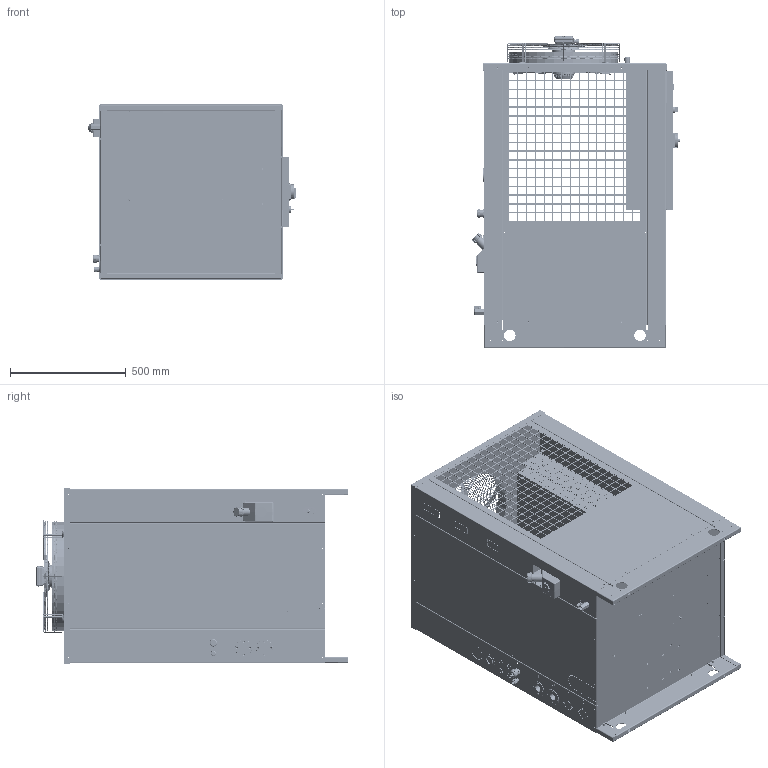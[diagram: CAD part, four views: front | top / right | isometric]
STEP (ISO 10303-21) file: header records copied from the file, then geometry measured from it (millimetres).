
FILE_DESCRIPTION (( 'STEP AP214' ), '1' );
FILE_NAME ('50-2D-00009.STEP', '2018-12-11T14:15:34', ( 'Utente' ), ( 'Microsoft' ), 'SwSTEP 2.0', 'SolidWorks 2013', '' );
FILE_SCHEMA (( 'AUTOMOTIVE_DESIGN' ));
Length unit declared in the file: millimetre
Products named in the file (73): CXZ-M16_ASM_ASM; CR-2D-00010_001; 6D-400-S-018-2_22_AF0; CXZ-M16_ASM_1_ASM; RIVELOX M5; pg-21 nelco_part1_Socket-1.209.2100.15-Nelco; 450-021-011_AF0; 6D-400-S-040-4_1; ST-AT-00020_003; 6D-400-S-040-3_1; VR-3D-00021_000; Tappo quadro elettrico; TE-EL-00007 - EW_971_230V; JUNCTION-BOX-7_ASM; VR-2D-00005_001; SELETTORE_NERO; PG 13.5_Cable-Gland-1.209.1300.14-Nelco; 8UF-TOPCOVER-1; MA-N1-00001_MANOMETRO ACQUA 40mm 0-12 BAR; PG 13.5_1_Socket-1.209.1300.14-Nelco; WATERPROOF-1; VR-2D-00008_001; PG 13.5_2_Nut-PA-Grey-24-24-27-Nelco; LINKER; VA-A5-00001; AEC1022F; 8UFCAPACITOR; VR-2D-00012_000; TAPPO 1P  FEM ; VR-2D-00013_001; 8UF-CAPACITOR-1; IN-VI-00001; M6X16-FL; VR-2D-00011_000; SE-RP-00044_CORPO; VR-2D-00014_000; WZ450-GA-2; DED965FB-6F17-44D8-8B5E-7FBD67AD56EC; 450-Z; VR-2D-00003_001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
Assembly tree (157 placements, depth 5):
  50-2D-00009
    VR-2D-00003_001
      VR-2D-00003_001
      Rivelox M5 Reduced Head Hexagonal Shank.  x24
    VR-2D-00011_000
      VR-2D-00011_000
      Rivelox M5 Reduced Head Hexagonal Shank.  x8
    VR-2D-00012_000
      VR-2D-00012_000
      Rivelox M5 Reduced Head Hexagonal Shank.  x8
    VR-2D-00008_001
      VR-2D-00008_001
      Rivelox M5 Reduced Head Hexagonal Shank.  x2
    VR-2D-00005_001  x2
      VR-2D-00005_001
      Rivelox M5 Reduced Head Hexagonal Shank.
    VR-3D-00021_000
    CR-2D-00010_001
      CR-2D-00010_001
      RIVELOX M5  x6
    CR-2D-00009_001
      CR-2D-00009_001
      RIVELOX M5  x6
    CR-2D-00002_001
      CR-2D-00002_001
      RIVELOX M5  x6
    VR-2D-00001_002
      VR-2D-00001_002A
      VR-2D-00001_002B
    VR-2D-00014_000
      VR-2D-00014_000
      Rivelox M5 Reduced Head Hexagonal Shank.  x5
    VR-2D-00013_001
      VR-2D-00013_001
      Rivelox M5 Reduced Head Hexagonal Shank.  x5
    AEC1022F
    PG 13.5_Cable-Gland-1.209.1300.14-Nelco  x2
      PG 13.5_2_Nut-PA-Grey-24-24-27-Nelco
      PG 13.5_1_Socket-1.209.1300.14-Nelco
    TE-EL-00007 - EW_971_230V
    ST-AT-00020_003  x2
    VE-W3-00002_000
      450-Z-C-0_ASM
        450-021-C-Z_ASM
          450-021-011_AF0
          6D-400-S-018-2_22_AF0
          PRT0002_11_AF0
          6D-400-S-012_2_AF0
        450-SHAFT
        450-012-C
        350-450-031
      450-Z  x5
      WZ450-GA-2
      M6X16-FL  x4
      JUNCTION-BOX-7_ASM
        8UF-CAPACITOR-1
        8UFCAPACITOR
        LINKER
        WATERPROOF-1
        8UF-TOPCOVER-1
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Bounding box: 899.87 x 1349.06 x 756.5 mm (x, y, z)
Volume: 14145125.8 mm3; surface area: 15691164.4 mm2
Topology: 182 solids, 183 shells, 16289 faces, 42172 edges, 26289 vertices
Faces by surface type: plane 8147, bspline 3594, cylinder 3362, cone 980, torus 165, sphere 41
Entity records: 564917 total; most frequent: CARTESIAN_POINT 271379, ORIENTED_EDGE 65802, DIRECTION 49013, EDGE_CURVE 32901, VERTEX_POINT 20599, VECTOR 16637, LINE 16637, AXIS2_PLACEMENT_3D 16188
